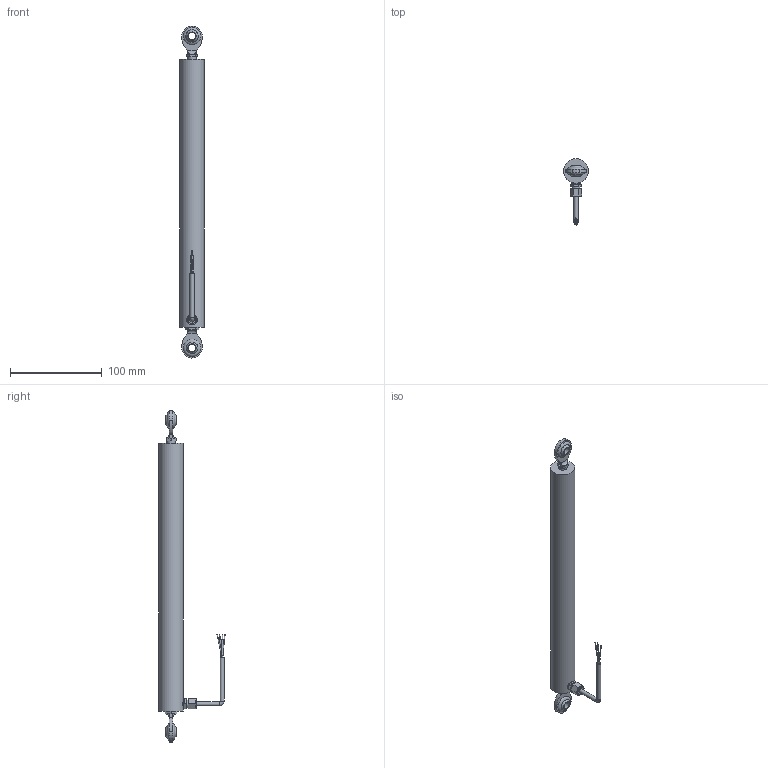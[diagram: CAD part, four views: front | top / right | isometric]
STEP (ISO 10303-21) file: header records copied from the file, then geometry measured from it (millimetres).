
FILE_DESCRIPTION(/* description */ (''),/* implementation_level */ '2;1');
FILE_NAME(/* name */ 'ILPS-27L-200-R-00-50-A (wrapped).step',/* time_stamp */ '2023-09-08T14:06:52-04:00',/* author */ ('TSC_Grant'),/* organization */ (''),/* preprocessor_version */ 'ST-DEVELOPER v19.2',/* originating_system */ 'Autodesk Inventor 2024',/* authorisation */ '');
FILE_SCHEMA (('AUTOMOTIVE_DESIGN { 1 0 10303 214 3 1 1 }'));
Length unit declared in the file: inch
Products named in the file (4): ILPS-27-100-R-00-50-A (wrapped); ILPS-27L-200-R-00-50-A_Simplify_1; ILPS-27L-200-R-00-50-A_Simplify_2; LZ-33 Cable
Assembly tree (3 placements, depth 2):
  ILPS-27-100-R-00-50-A (wrapped)
    ILPS-27L-200-R-00-50-A_Simplify_1
    ILPS-27L-200-R-00-50-A_Simplify_2
    LZ-33 Cable
Bounding box: 26.67 x 72.34 x 361.92 mm (x, y, z)
Volume: 171415 mm3; surface area: 45069.4 mm2
Topology: 3 solids, 3 shells, 148 faces, 338 edges, 222 vertices
Faces by surface type: plane 74, cylinder 53, bspline 8, torus 6, sphere 4, cone 3
Full cylindrical faces by diameter (mm): 0.635 x4, 0.762 x4, 4.369 x3, 4.572 x2, 8 x2, 8.712 x2, 9.398 x2, 10.999 x1, 26.67 x1
Entity records: 4990 total; most frequent: CARTESIAN_POINT 1191, DIRECTION 738, ORIENTED_EDGE 674, EDGE_CURVE 337, AXIS2_PLACEMENT_3D 297, VERTEX_POINT 222, EDGE_LOOP 179, STYLED_ITEM 151
